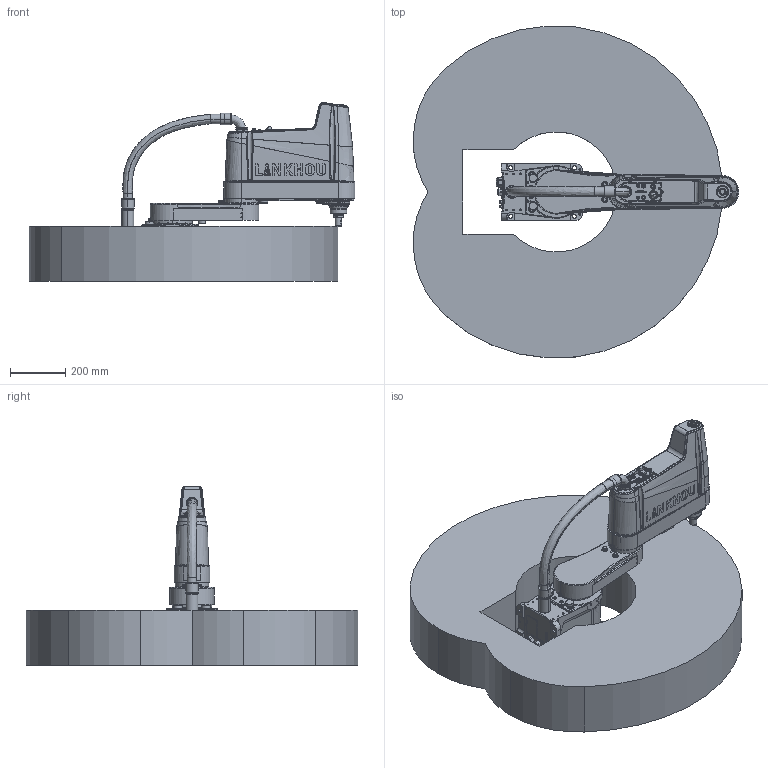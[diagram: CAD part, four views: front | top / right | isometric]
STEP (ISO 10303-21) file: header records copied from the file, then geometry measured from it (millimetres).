
FILE_DESCRIPTION (( 'STEP AP203' ), '1' );
FILE_NAME ('TM10A-R600ÓÐlogo2017.step', '2023-12-22T14:12:33', ( '' ), ( '' ), 'SwSTEP 2.0', 'SolidWorks 2017', '' );
FILE_SCHEMA (( 'CONFIG_CONTROL_DESIGN' ));
Length unit declared in the file: millimetre
Products named in the file (7): ｸｴｼ ｸｴｼ TM10A-R600ﾔﾋｶｯｷｶﾎｧﾍｼ^TM10A-R600ﾓﾐlogo2017; TM10A-R600ÓÐlogo2017; ｸｴｼ TM10Aﾐ｡ｱﾛﾓﾐlogo^TM10A-R600ﾓﾐlogo2017; ｸｴｼ ｸｴｼ TM10A-R600ﾏﾟﾊTM10A-R600ﾓﾐlogo2017; ｸｴｼ ｸｴｼ TM10A-ｵﾗﾗTM10A-R600ﾓﾐlogo2017; ｸｴｼ ｸｴｼ TM10A-R600ｴﾛ^TM10A-R600ﾓﾐlogo2017; ｸｴｼ 25ﾋｿｸﾋ440ﾊﾄ｣ﾍｼ^TM10A-R600ﾓﾐlogo2017
Assembly tree (6 placements, depth 2):
  TM10A-R600ÓÐlogo2017
    ｸｴｼ ｸｴｼ TM10A-ｵﾗﾗTM10A-R600ﾓﾐlogo2017
    ｸｴｼ ｸｴｼ TM10A-R600ｴﾛ^TM10A-R600ﾓﾐlogo2017
    ｸｴｼ TM10Aﾐ｡ｱﾛﾓﾐlogo^TM10A-R600ﾓﾐlogo2017
    ｸｴｼ 25ﾋｿｸﾋ440ﾊﾄ｣ﾍｼ^TM10A-R600ﾓﾐlogo2017
    ｸｴｼ ｸｴｼ TM10A-R600ﾏﾟﾊTM10A-R600ﾓﾐlogo2017
    ｸｴｼ ｸｴｼ TM10A-R600ﾔﾋｶｯｷｶﾎｧﾍｼ^TM10A-R600ﾓﾐlogo2017
Bounding box: 1176.28 x 1198.47 x 645.82 mm (x, y, z)
Volume: 196352047.3 mm3; surface area: 4741234 mm2
Topology: 42 solids, 43 shells, 3165 faces, 8054 edges, 5086 vertices
Faces by surface type: plane 960, bspline 829, cylinder 806, cone 569, torus 1
Entity records: 185796 total; most frequent: CARTESIAN_POINT 117849, ORIENTED_EDGE 15890, DIRECTION 10964, EDGE_CURVE 7945, VERTEX_POINT 5086, AXIS2_PLACEMENT_3D 4104, EDGE_LOOP 3513, FACE_OUTER_BOUND 3165
